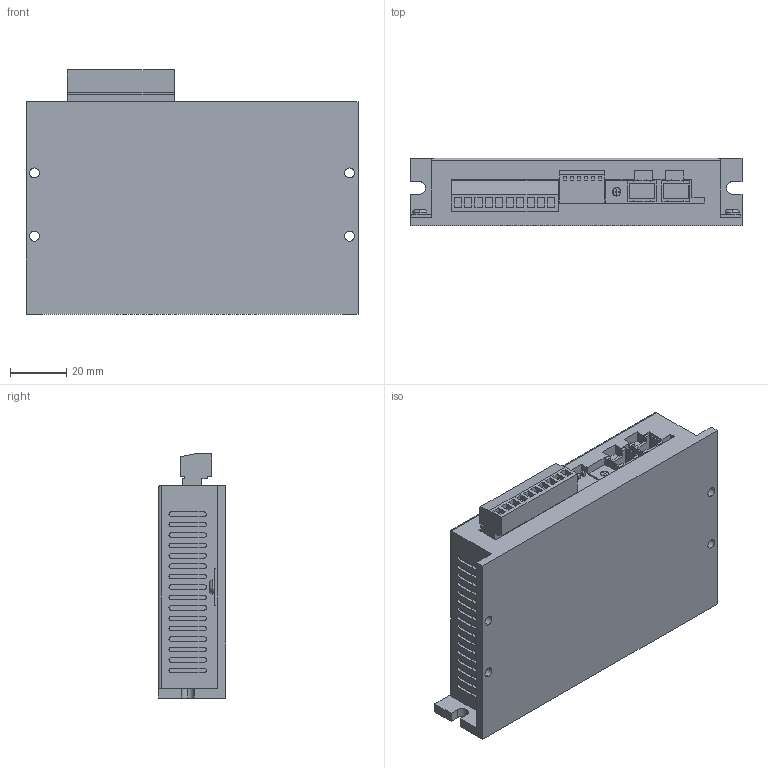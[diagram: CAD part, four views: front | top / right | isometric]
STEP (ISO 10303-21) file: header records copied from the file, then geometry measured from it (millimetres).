
FILE_DESCRIPTION (( 'STEP AP203' ), '1' );
FILE_NAME ('R42?2.STEP', '2023-10-30T08:10:10', ( '' ), ( '' ), 'SwSTEP 2.0', 'SolidWorks 2020', '' );
FILE_SCHEMA (( 'CONFIG_CONTROL_DESIGN' ));
Length unit declared in the file: millimetre
Products named in the file (1): R42?2
Bounding box: 118 x 24 x 86.8 mm (x, y, z)
Volume: 192336.1 mm3; surface area: 31633.6 mm2
Topology: 1 solids, 1 shells, 442 faces, 1102 edges, 729 vertices
Faces by surface type: plane 330, cylinder 108, torus 4
Entity records: 13163 total; most frequent: CARTESIAN_POINT 2280, DIRECTION 2206, ORIENTED_EDGE 2204, EDGE_CURVE 1102, VECTOR 880, LINE 880, VERTEX_POINT 729, AXIS2_PLACEMENT_3D 663
